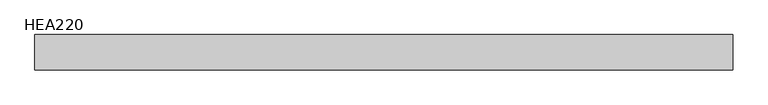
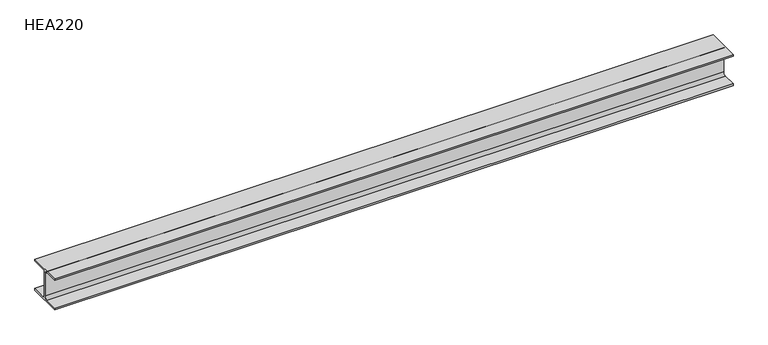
"""IFC4 building model written with IfcOpenShell, lengths in millimetres: beam geometry, HE-A : HEA220."""

import ifcopenshell
import ifcopenshell.guid

model = None  # the IFC model being written
_history = None  # IfcOwnerHistory: only IFC2X3 demands one
_inside = {}  # id of a spatial element -> (the spatial element, [elements in it])
_under = {}  # id of a project, library or spatial element -> (it, [spatial elements below it])
_declared = {}  # id of a project -> (the project, [libraries it declares])
_typed = {}  # id of a type object -> (the type object, [elements of that type])
_made_of = {}  # id of a material, layer set ... -> (it, [elements and type objects made of it])


def new_model(schema):
    """Start an empty IFC model of exactly this schema.

    Asked for "IFC4X3", IfcOpenShell would pick the latest addendum, in which some entities
    have other attributes; the version numbers below select the first issue.
    IFC2X3 requires an IfcOwnerHistory on every rooted entity: one is made here for all.
    """
    global model, _history
    if schema == "IFC4X3":
        model = ifcopenshell.file(schema_version=(4, 3, 0, 0))
    else:
        model = ifcopenshell.file(schema=schema)
    _inside.clear()
    _under.clear()
    _declared.clear()
    _typed.clear()
    _made_of.clear()
    _history = None
    if model.schema == "IFC2X3":
        org = make("IfcOrganization", Name="unknown")
        user = make(
            "IfcPersonAndOrganization",
            ThePerson=make("IfcPerson", FamilyName="unknown"),
            TheOrganization=org,
        )
        app = make(
            "IfcApplication",
            ApplicationDeveloper=org,
            Version="unknown",
            ApplicationFullName="unknown",
            ApplicationIdentifier="unknown",
        )
        _history = make(
            "IfcOwnerHistory",
            OwningUser=user,
            OwningApplication=app,
            ChangeAction="ADDED",
            CreationDate=0,
        )
    return model


def make(cls, **values):
    """One entity of the class cls with the attributes given. An attribute that is None is left unset."""
    return model.create_entity(
        cls, **{name: value for name, value in values.items() if value is not None}
    )


def rooted(cls, **values):
    """An entity with a GlobalId (a new one), such as an element, a storey or a relation."""
    return make(cls, GlobalId=ifcopenshell.guid.new(), OwnerHistory=_history, **values)


def si_unit(unit_type, name, prefix=None):
    """IfcSIUnit, for example si_unit("LENGTHUNIT", "METRE", prefix="MILLI")."""
    return make("IfcSIUnit", UnitType=unit_type, Prefix=prefix, Name=name)


def assignment(units):
    """IfcUnitAssignment: the units of a project."""
    return None if units is None else make("IfcUnitAssignment", Units=units)


def point(xyz):
    """IfcCartesianPoint."""
    return None if xyz is None else make("IfcCartesianPoint", Coordinates=xyz)


def direction(xyz):
    """IfcDirection."""
    return None if xyz is None else make("IfcDirection", DirectionRatios=xyz)


def frame(location, z_axis=None, x_axis=None):
    """IfcAxis2Placement3D, a coordinate frame: its origin and axes. An axis left out is left unset."""
    return make(
        "IfcAxis2Placement3D",
        Location=point(location),
        Axis=direction(z_axis),
        RefDirection=direction(x_axis),
    )


def frame_2d(location, x_axis=None):
    """IfcAxis2Placement2D, a coordinate frame in the plane: its origin and x axis."""
    return make(
        "IfcAxis2Placement2D", Location=point(location), RefDirection=direction(x_axis)
    )


def origin():
    """The frame at (0, 0, 0) with its axes left unset."""
    return frame((0.0, 0.0, 0.0))


def place(relative_to, where):
    """IfcLocalPlacement: puts the frame where relative to a parent placement (None: the world)."""
    return make(
        "IfcLocalPlacement", PlacementRelTo=relative_to, RelativePlacement=where
    )


def context(
    kind, dimensions, precision=None, world=None, true_north=None, identifier=None
):
    """IfcGeometricRepresentationContext, for example the 3D "Model" context."""
    return make(
        "IfcGeometricRepresentationContext",
        ContextIdentifier=identifier,
        ContextType=kind,
        CoordinateSpaceDimension=dimensions,
        Precision=precision,
        WorldCoordinateSystem=world,
        TrueNorth=true_north,
    )


def project(units=None, contexts=None):
    """IfcProject with its units and contexts."""
    return rooted(
        "IfcProject",
        Name="project",
        RepresentationContexts=contexts,
        UnitsInContext=assignment(units),
    )


def spatial(cls, under=None, at=None, **own):
    """A site, building, storey or space (cls), placed at a placement, below another one or the project."""
    s = rooted(cls, ObjectPlacement=at, **own)
    if under is not None:
        _under.setdefault(under.id(), (under, []))[1].append(s)
    return s


def polyline(points):
    """IfcPolyline through the points."""
    return make("IfcPolyline", Points=[point(p) for p in points])


def circle_curve(where, radius):
    """IfcCircle in the frame where."""
    return make("IfcCircle", Position=where, Radius=radius)


def trimmed(basis, trim1, trim2, sense, master):
    """IfcTrimmedCurve: the piece of a basis curve between two trims."""
    return make(
        "IfcTrimmedCurve",
        BasisCurve=basis,
        Trim1=trim1,
        Trim2=trim2,
        SenseAgreement=sense,
        MasterRepresentation=master,
    )


def segment(curve, same_sense, transition):
    """IfcCompositeCurveSegment."""
    return make(
        "IfcCompositeCurveSegment",
        Transition=transition,
        SameSense=same_sense,
        ParentCurve=curve,
    )


def composite_curve(segments, self_intersect=None):
    """IfcCompositeCurve: segments joined end to end."""
    return make("IfcCompositeCurve", Segments=segments, SelfIntersect=self_intersect)


def outline(outer, holes=None, kind="AREA"):
    """IfcArbitraryClosedProfileDef: a profile drawn as a closed curve; with holes, ...WithVoids."""
    if holes is None:
        return make("IfcArbitraryClosedProfileDef", ProfileType=kind, OuterCurve=outer)
    return make(
        "IfcArbitraryProfileDefWithVoids",
        ProfileType=kind,
        OuterCurve=outer,
        InnerCurves=holes,
    )


def extrude(swept, where, along, depth):
    """IfcExtrudedAreaSolid: the profile swept, set in the frame where, extruded along a direction by depth."""
    return make(
        "IfcExtrudedAreaSolid",
        SweptArea=swept,
        Position=where,
        ExtrudedDirection=direction(along),
        Depth=depth,
    )


def shape(context_of_items, identifier, shape_type, items):
    """IfcShapeRepresentation: the items that make up one representation, for example the "Body"."""
    return make(
        "IfcShapeRepresentation",
        ContextOfItems=context_of_items,
        RepresentationIdentifier=identifier,
        RepresentationType=shape_type,
        Items=items,
    )


def source(mapping_origin, context_of_items, identifier, shape_type, items):
    """IfcRepresentationMap: a shape defined once, which mapped items show again and again."""
    return make(
        "IfcRepresentationMap",
        MappingOrigin=mapping_origin,
        MappedRepresentation=shape(context_of_items, identifier, shape_type, items),
    )


def transform(
    local_origin,
    x_axis=None,
    y_axis=None,
    z_axis=None,
    scale=None,
    scale2=None,
    scale3=None,
    uniform=True,
):
    """IfcCartesianTransformationOperator3D, or its non-uniform kind. x_axis, y_axis, z_axis: its Axis1, 2, 3."""
    if uniform:
        return make(
            "IfcCartesianTransformationOperator3D",
            Axis1=direction(x_axis),
            Axis2=direction(y_axis),
            LocalOrigin=point(local_origin),
            Scale=scale,
            Axis3=direction(z_axis),
        )
    return make(
        "IfcCartesianTransformationOperator3DnonUniform",
        Axis1=direction(x_axis),
        Axis2=direction(y_axis),
        LocalOrigin=point(local_origin),
        Scale=scale,
        Axis3=direction(z_axis),
        Scale2=scale2,
        Scale3=scale3,
    )


def mapped(mapping_source, mapping_target):
    """IfcMappedItem: shows the shape of a source again, moved by a transform."""
    return make(
        "IfcMappedItem", MappingSource=mapping_source, MappingTarget=mapping_target
    )


def made_of(thing, what):
    """Note that an element or type object is made of a material, layer set ...; save() writes the relation."""
    if what is not None:
        _made_of.setdefault(what.id(), (what, []))[1].append(thing)
    return thing


def element(
    cls,
    number,
    at=None,
    inside=None,
    cuts=None,
    type_object=None,
    material=None,
    context=None,
    identifier="Body",
    shape_type=None,
    held_by="IfcProductDefinitionShape",
    body=None,
    shapes=None,
    **own,
):
    """One element of the class cls, such as IfcWall. Its Tag is "e" and its number.

    at: its placement. inside: the storey or other place that contains it. cuts: it is an
    opening in that element (IfcRelVoidsElement). A single representation is given by context,
    identifier, shape_type and body (its items); several are given by shapes. held_by: the class
    of the entity that holds the representations. save() writes the other relations.
    """
    e = rooted(cls, Tag="e%d" % number, ObjectPlacement=at, **own)
    if body is not None:
        shapes = [shape(context, identifier, shape_type, body)]
    if shapes is not None:
        e.Representation = make(held_by, Representations=shapes)
    if inside is not None:
        _inside.setdefault(inside.id(), (inside, []))[1].append(e)
    if cuts is not None:
        rooted(
            "IfcRelVoidsElement", RelatingBuildingElement=cuts, RelatedOpeningElement=e
        )
    if type_object is not None:
        _typed.setdefault(type_object.id(), (type_object, []))[1].append(e)
    return made_of(e, material)


def aggregate(whole, parts):
    """IfcRelAggregates: a whole, such as a stair, and the parts it consists of."""
    return rooted("IfcRelAggregates", RelatingObject=whole, RelatedObjects=parts)


def save(model, path):
    """Write the relations noted so far, then the file.

    IfcRelAggregates (storeys below a building ...), IfcRelContainedInSpatialStructure (elements
    in a storey), IfcRelDefinesByType, IfcRelAssociatesMaterial and IfcRelDeclares: one each for
    every whole, place, type object, material and project.
    """
    for whole, parts in _under.values():
        aggregate(whole, parts)
    for where, things in _inside.values():
        rooted(
            "IfcRelContainedInSpatialStructure",
            RelatedElements=things,
            RelatingStructure=where,
        )
    for kind, things in _typed.values():
        rooted("IfcRelDefinesByType", RelatedObjects=things, RelatingType=kind)
    for what, things in _made_of.values():
        rooted("IfcRelAssociatesMaterial", RelatedObjects=things, RelatingMaterial=what)
    for by, libraries in _declared.values():
        rooted("IfcRelDeclares", RelatingContext=by, RelatedDefinitions=libraries)
    model.write(path)


def hea220_42e4d512(model_context):
    return source(origin(), model_context, "Body", "SweptSolid", [
        extrude(outline(composite_curve([segment(polyline([(110.0, -94.0), (110.0, -105.0), (-110.0, -105.0), (-110.0, -94.0), (-21.5, -94.0)]), True, "CONTINUOUS"), segment(trimmed(circle_curve(frame_2d((-21.5, -76.0)), 18.0), [point((-21.5, -94.0))], [point((-3.5, -76.0))], True, "CARTESIAN"), True, "CONTINUOUS"), segment(polyline([(-3.5, -76.0), (-3.5, 76.0)]), True, "CONTINUOUS"), segment(trimmed(circle_curve(frame_2d((-21.5, 76.0)), 18.0), [point((-3.5, 76.0))], [point((-21.5, 94.0))], True, "CARTESIAN"), True, "CONTINUOUS"), segment(polyline([(-21.5, 94.0), (-110.0, 94.0), (-110.0, 105.0), (110.0, 105.0), (110.0, 94.0), (21.5, 94.0)]), True, "CONTINUOUS"), segment(trimmed(circle_curve(frame_2d((21.5, 76.0)), 18.0), [point((21.5, 94.0))], [point((3.5, 76.0))], True, "CARTESIAN"), True, "CONTINUOUS"), segment(polyline([(3.5, 76.0), (3.5, -76.0)]), True, "CONTINUOUS"), segment(trimmed(circle_curve(frame_2d((21.5, -76.0)), 18.0), [point((3.5, -76.0))], [point((21.5, -94.0))], True, "CARTESIAN"), True, "CONTINUOUS"), segment(polyline([(21.5, -94.0), (110.0, -94.0)]), True, "CONTINUOUS")], self_intersect=False)), frame((-2175.4, 0.0, 0.0), z_axis=(1.0, 0.0, 0.0), x_axis=(0.0, 1.0, 0.0)), (0.0, 0.0, 1.0), 4350.8),
    ])


if __name__ == "__main__":
    model = new_model("IFC4")
    model_context = context("Model", 3, world=origin())
    ifc_project = project(units=[si_unit("LENGTHUNIT", "METRE", prefix="MILLI")], contexts=[model_context])
    site = spatial("IfcSite", under=ifc_project)
    building = spatial("IfcBuilding", under=site)
    placement = place(None, origin())
    hea220_shape = hea220_42e4d512(model_context)
    element("IfcBeam", 1, ObjectType="HE-A : HEA220", at=placement, inside=building, context=model_context, shape_type="MappedRepresentation", body=[
        mapped(hea220_shape, transform((0.0, 0.0, 0.0), x_axis=(1.0, 0.0, 0.0), y_axis=(0.0, 1.0, 0.0), z_axis=(0.0, 0.0, 1.0))),
    ])
    save(model, "model.ifc")
